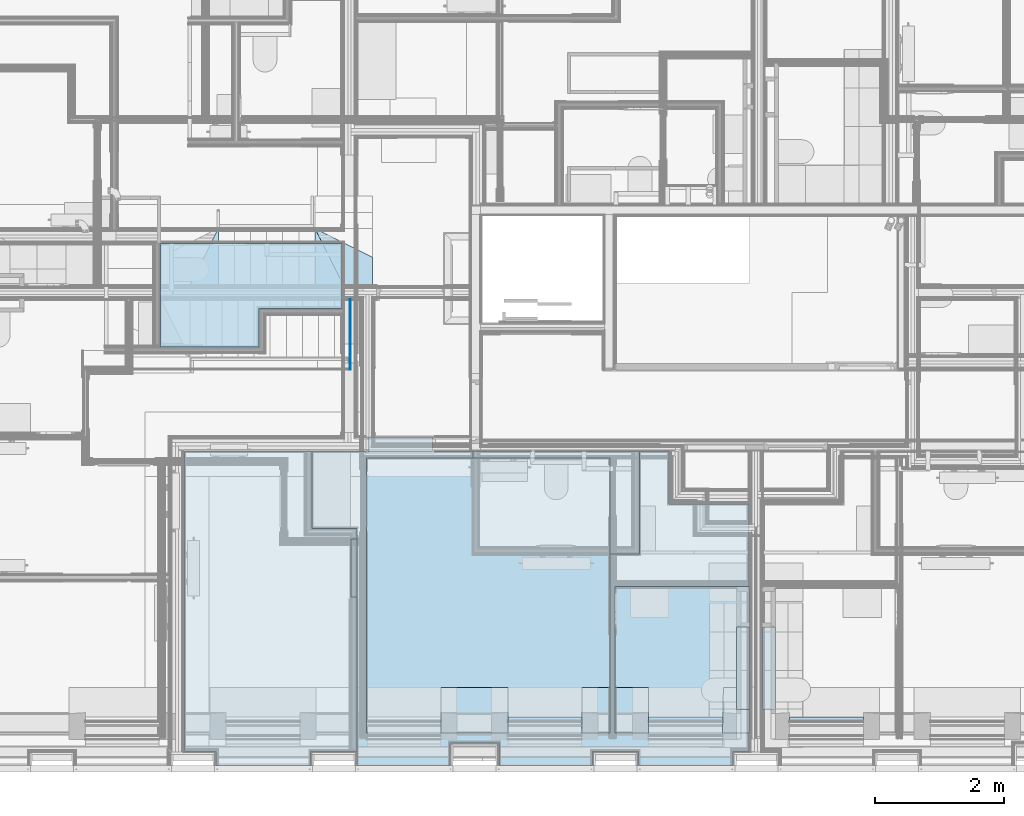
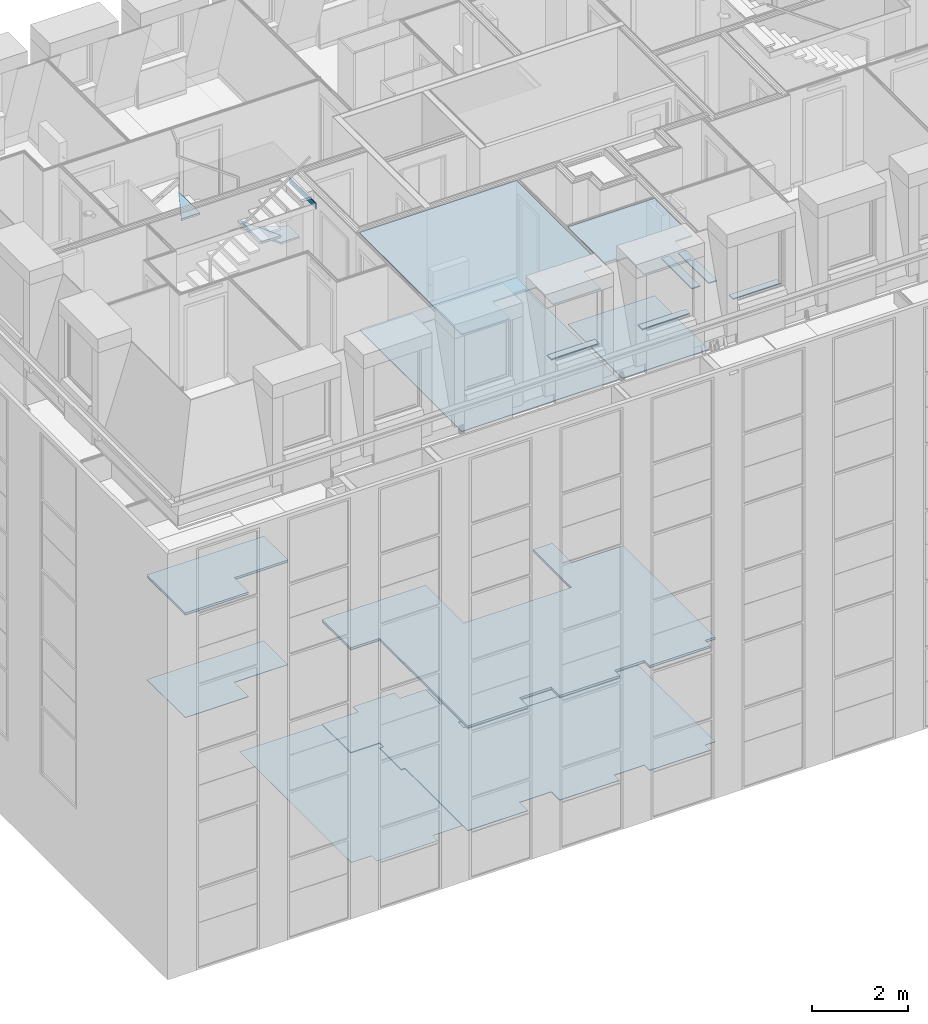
# One storey, part 70 of 169: 24 slabs.
"""IFC2X3 building model written with IfcOpenShell, lengths in metres."""

from ifc_helpers import new_model, entity, si_unit, converted_unit, derived_unit, money_unit, direction, frame, origin_with_axes, place, context, subcontext, project, spatial, faceted_brep, material, type_object, element, save


model = new_model("IFC2X3")

# Units and contexts
model_context = context("Model", 3, precision=1e-05, world=origin_with_axes(), true_north=direction((0.0, 1.0)))
body_context = subcontext(model_context, "Body", "Model", "MODEL_VIEW", scale=1.0)
ifc_project = project(units=[si_unit("LENGTHUNIT", "METRE"), si_unit("AREAUNIT", "SQUARE_METRE"), si_unit("VOLUMEUNIT", "CUBIC_METRE"), si_unit("ABSORBEDDOSEUNIT", "GRAY"), si_unit("AMOUNTOFSUBSTANCEUNIT", "MOLE"), si_unit("DOSEEQUIVALENTUNIT", "SIEVERT"), si_unit("ELECTRICCAPACITANCEUNIT", "FARAD"), si_unit("ELECTRICCHARGEUNIT", "COULOMB"), si_unit("ELECTRICCONDUCTANCEUNIT", "SIEMENS"), si_unit("ELECTRICCURRENTUNIT", "AMPERE"), si_unit("ELECTRICRESISTANCEUNIT", "OHM"), si_unit("ELECTRICVOLTAGEUNIT", "VOLT"), si_unit("ENERGYUNIT", "JOULE"), si_unit("FORCEUNIT", "NEWTON"), si_unit("FREQUENCYUNIT", "HERTZ"), si_unit("ILLUMINANCEUNIT", "LUX"), si_unit("INDUCTANCEUNIT", "HENRY"), si_unit("LUMINOUSFLUXUNIT", "LUMEN"), si_unit("LUMINOUSINTENSITYUNIT", "CANDELA"), si_unit("MAGNETICFLUXDENSITYUNIT", "TESLA"), si_unit("MAGNETICFLUXUNIT", "WEBER"), si_unit("MASSUNIT", "GRAM"), converted_unit("PLANEANGLEUNIT", "degree", entity("IfcReal", 0.0174532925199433), si_unit("PLANEANGLEUNIT", "RADIAN"), dimensions=[0, 0, 0, 0, 0, 0, 0]), si_unit("POWERUNIT", "WATT"), si_unit("PRESSUREUNIT", "PASCAL"), si_unit("RADIOACTIVITYUNIT", "BECQUEREL"), si_unit("SOLIDANGLEUNIT", "STERADIAN"), si_unit("THERMODYNAMICTEMPERATUREUNIT", "KELVIN"), si_unit("TIMEUNIT", "SECOND"), derived_unit("ACCELERATIONUNIT", [(si_unit("LENGTHUNIT", "METRE"), 1), (si_unit("TIMEUNIT", "SECOND"), -2)]), derived_unit("ANGULARVELOCITYUNIT", [(converted_unit("PLANEANGLEUNIT", "degree", entity("IfcReal", 0.0174532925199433), si_unit("PLANEANGLEUNIT", "RADIAN"), dimensions=[0, 0, 0, 0, 0, 0, 0]), 1), (si_unit("TIMEUNIT", "SECOND"), -1)]), derived_unit("CURVATUREUNIT", [(converted_unit("PLANEANGLEUNIT", "degree", entity("IfcReal", 0.0174532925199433), si_unit("PLANEANGLEUNIT", "RADIAN"), dimensions=[0, 0, 0, 0, 0, 0, 0]), 1), (si_unit("LENGTHUNIT", "METRE"), -1)]), derived_unit("DYNAMICVISCOSITYUNIT", [(si_unit("PRESSUREUNIT", "PASCAL"), 1), (si_unit("TIMEUNIT", "SECOND"), 1)]), derived_unit("HEATFLUXDENSITYUNIT", [(si_unit("POWERUNIT", "WATT"), 1), (si_unit("LENGTHUNIT", "METRE"), -2)]), derived_unit("HEATINGVALUEUNIT", [(si_unit("ENERGYUNIT", "JOULE"), 1), (si_unit("MASSUNIT", "GRAM"), -1)]), derived_unit("INTEGERCOUNTRATEUNIT", [(si_unit("TIMEUNIT", "SECOND"), -1)]), derived_unit("IONCONCENTRATIONUNIT", [(si_unit("MASSUNIT", "GRAM"), 1), (si_unit("VOLUMEUNIT", "CUBIC_METRE"), -1)]), derived_unit("ISOTHERMALMOISTURECAPACITYUNIT", [(si_unit("VOLUMEUNIT", "CUBIC_METRE"), 1), (si_unit("MASSUNIT", "GRAM"), -1)]), derived_unit("KINEMATICVISCOSITYUNIT", [(si_unit("AREAUNIT", "SQUARE_METRE"), 1), (si_unit("TIMEUNIT", "SECOND"), -1)]), derived_unit("LINEARFORCEUNIT", [(si_unit("FORCEUNIT", "NEWTON"), 1), (si_unit("LENGTHUNIT", "METRE"), -1)]), derived_unit("LINEARMOMENTUNIT", [(si_unit("FORCEUNIT", "NEWTON"), 1), (si_unit("LENGTHUNIT", "METRE"), -1)]), derived_unit("LINEARSTIFFNESSUNIT", [(si_unit("FORCEUNIT", "NEWTON"), 1), (si_unit("LENGTHUNIT", "METRE"), -1)]), derived_unit("LINEARVELOCITYUNIT", [(si_unit("LENGTHUNIT", "METRE"), 1), (si_unit("TIMEUNIT", "SECOND"), -1)]), derived_unit("LUMINOUSINTENSITYDISTRIBUTIONUNIT", [(si_unit("LUMINOUSINTENSITYUNIT", "CANDELA"), 1), (si_unit("LUMINOUSFLUXUNIT", "LUMEN"), -1)]), derived_unit("MASSDENSITYUNIT", [(si_unit("MASSUNIT", "GRAM"), 1), (si_unit("VOLUMEUNIT", "CUBIC_METRE"), -1)]), derived_unit("MASSFLOWRATEUNIT", [(si_unit("MASSUNIT", "GRAM"), 1), (si_unit("TIMEUNIT", "SECOND"), -1)]), derived_unit("MASSPERLENGTHUNIT", [(si_unit("MASSUNIT", "GRAM"), 1), (si_unit("LENGTHUNIT", "METRE"), -1)]), derived_unit("MODULUSOFELASTICITYUNIT", [(si_unit("FORCEUNIT", "NEWTON"), 1), (si_unit("AREAUNIT", "SQUARE_METRE"), -1)]), derived_unit("MODULUSOFLINEARSUBGRADEREACTIONUNIT", [(si_unit("FORCEUNIT", "NEWTON"), 1), (si_unit("LENGTHUNIT", "METRE"), -2)]), derived_unit("MODULUSOFROTATIONALSUBGRADEREACTIONUNIT", [(si_unit("FORCEUNIT", "NEWTON"), 1), (si_unit("LENGTHUNIT", "METRE"), 1)]), derived_unit("MODULUSOFSUBGRADEREACTIONUNIT", [(si_unit("FORCEUNIT", "NEWTON"), 1), (si_unit("VOLUMEUNIT", "CUBIC_METRE"), -1)]), derived_unit("MOISTUREDIFFUSIVITYUNIT", [(si_unit("VOLUMEUNIT", "CUBIC_METRE"), 1), (si_unit("TIMEUNIT", "SECOND"), -1)]), derived_unit("MOLECULARWEIGHTUNIT", [(si_unit("MASSUNIT", "GRAM"), 1), (si_unit("AMOUNTOFSUBSTANCEUNIT", "MOLE"), -1)]), derived_unit("PLANARFORCEUNIT", [(si_unit("FORCEUNIT", "NEWTON"), 1), (si_unit("LENGTHUNIT", "METRE"), -2)]), derived_unit("ROTATIONALFREQUENCYUNIT", [(si_unit("TIMEUNIT", "SECOND"), -1)]), derived_unit("ROTATIONALMASSUNIT", [(si_unit("MASSUNIT", "GRAM"), 1), (si_unit("LENGTHUNIT", "METRE"), 2)]), derived_unit("ROTATIONALSTIFFNESSUNIT", [(si_unit("FORCEUNIT", "NEWTON"), 1), (si_unit("LENGTHUNIT", "METRE"), 1), (converted_unit("PLANEANGLEUNIT", "degree", entity("IfcReal", 0.0174532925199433), si_unit("PLANEANGLEUNIT", "RADIAN"), dimensions=[0, 0, 0, 0, 0, 0, 0]), -1)]), derived_unit("SECTIONAREAINTEGRALUNIT", [(si_unit("LENGTHUNIT", "METRE"), 5)]), derived_unit("SECTIONMODULUSUNIT", [(si_unit("LENGTHUNIT", "METRE"), 3)]), derived_unit("SHEARMODULUSUNIT", [(si_unit("FORCEUNIT", "NEWTON"), 1), (si_unit("AREAUNIT", "SQUARE_METRE"), -1)]), derived_unit("SOUNDPOWERUNIT", [(si_unit("ENERGYUNIT", "JOULE"), 1), (si_unit("TIMEUNIT", "SECOND"), -1)]), derived_unit("SPECIFICHEATCAPACITYUNIT", [(si_unit("FORCEUNIT", "NEWTON"), 1), (si_unit("MASSUNIT", "GRAM"), -1), (si_unit("THERMODYNAMICTEMPERATUREUNIT", "KELVIN"), -1)]), derived_unit("TEMPERATUREGRADIENTUNIT", [(si_unit("THERMODYNAMICTEMPERATUREUNIT", "KELVIN"), 1), (si_unit("LENGTHUNIT", "METRE"), -1)]), derived_unit("THERMALADMITTANCEUNIT", [(si_unit("POWERUNIT", "WATT"), 1), (si_unit("AREAUNIT", "SQUARE_METRE"), -1), (si_unit("THERMODYNAMICTEMPERATUREUNIT", "KELVIN"), -1)]), derived_unit("THERMALCONDUCTANCEUNIT", [(si_unit("POWERUNIT", "WATT"), 1), (si_unit("LENGTHUNIT", "METRE"), -1), (si_unit("THERMODYNAMICTEMPERATUREUNIT", "KELVIN"), -1)]), derived_unit("THERMALEXPANSIONCOEFFICIENTUNIT", [(si_unit("THERMODYNAMICTEMPERATUREUNIT", "KELVIN"), -1)]), derived_unit("THERMALRESISTANCEUNIT", [(si_unit("AREAUNIT", "SQUARE_METRE"), 1), (si_unit("POWERUNIT", "WATT"), -1)]), derived_unit("THERMALTRANSMITTANCEUNIT", [(si_unit("POWERUNIT", "WATT"), 1), (si_unit("AREAUNIT", "SQUARE_METRE"), -1), (si_unit("THERMODYNAMICTEMPERATUREUNIT", "KELVIN"), -1)]), derived_unit("TORQUEUNIT", [(si_unit("FORCEUNIT", "NEWTON"), 1), (si_unit("LENGTHUNIT", "METRE"), 1)]), derived_unit("VAPORPERMEABILITYUNIT", [(si_unit("MASSUNIT", "GRAM"), 1), (si_unit("TIMEUNIT", "SECOND"), -1)]), derived_unit("VOLUMETRICFLOWRATEUNIT", [(si_unit("VOLUMEUNIT", "CUBIC_METRE"), 1), (si_unit("TIMEUNIT", "SECOND"), -1)]), derived_unit("WARPINGCONSTANTUNIT", [(si_unit("LENGTHUNIT", "METRE"), 6)]), derived_unit("WARPINGMOMENTUNIT", [(si_unit("FORCEUNIT", "NEWTON"), 1), (si_unit("LENGTHUNIT", "METRE"), 2)]), money_unit("GBP")], contexts=[model_context])

# Site, building, storey
site_placement = place(None, origin_with_axes())
site = spatial("IfcSite", under=ifc_project, at=site_placement, Name="Site", CompositionType="ELEMENT")
building_placement = place(site_placement, origin_with_axes())
building = spatial("IfcBuilding", under=site, at=building_placement, Name="Building01", CompositionType="ELEMENT")
storey_placement = place(building_placement, frame((0.0, 0.0, 5.15), z_axis=(0.0, 0.0, 1.0), x_axis=(1.0, 0.0, 0.0)))
storey = spatial("IfcBuildingStorey", under=building, at=storey_placement, Name="1F", CompositionType="ELEMENT", Elevation=5.15)

# Slabs
ifc_material_1 = material(Name="A_BSUK_ExpandedPolystyreneBoards")
slab_type_1 = type_object("IfcSlabType", Name="A-FloorsSlabs A_BSUK_Slabs", PredefinedType="FLOOR")
placement = place(storey_placement, frame((0.0, 0.0, -5.15), z_axis=(0.0, 0.0, 1.0), x_axis=(1.0, 0.0, 0.0)))
element("IfcSlab", 1, at=placement, inside=storey, type_object=slab_type_1, material=ifc_material_1, Name="A-FloorsSlabs A_BSUK_Slabs", ObjectType="CompoundSlabLeaf", context=body_context, shape_type="Brep", body=[
    faceted_brep([(12.15, 4.98, 5.15), (12.15, 4.98, 5.153), (12.15, 4.164428, 5.153), (12.15, 4.164428, 5.15), (9.0, 4.98, 5.15), (9.0, 4.98, 5.153), (8.4725, 4.98, 5.15), (8.4725, 4.98, 5.153), (8.4725, 5.205, 5.15), (8.4725, 5.205, 5.153), (7.4725, 5.205, 5.15), (7.4725, 5.205, 5.153), (7.4725, 4.98, 5.15), (7.4725, 4.98, 5.153), (4.61, 4.98, 5.15), (4.61, 4.98, 5.153), (4.61, 0.318, 5.15), (4.61, 0.318, 5.153), (5.105, 0.318, 5.15), (5.105, 0.318, 5.153), (5.105, 0.1, 5.15), (5.105, 0.1, 5.153), (6.575, 0.1, 5.15), (6.575, 0.1, 5.153), (6.575, 0.318, 5.15), (6.575, 0.318, 5.153), (7.295, 0.318, 5.15), (7.295, 0.318, 5.153), (7.295, 0.1, 5.15), (7.295, 0.1, 5.153), (8.742, 0.1, 5.15), (8.742, 0.1, 5.153), (8.742, 0.448, 5.15), (8.742, 0.448, 5.153), (9.508, 0.448, 5.15), (9.508, 0.448, 5.153), (9.508, 0.1, 5.15), (9.508, 0.1, 5.153), (10.955, 0.1, 5.15), (10.955, 0.1, 5.153), (10.955, 0.318, 5.15), (10.955, 0.318, 5.153), (11.675, 0.318, 5.15), (11.675, 0.318, 5.153), (11.675, 0.1, 5.15), (11.675, 0.1, 5.153), (13.145, 0.1, 5.15), (13.145, 0.1, 5.153), (13.145, 0.318, 5.15), (13.145, 0.318, 5.153), (13.3875, 0.318, 5.15), (13.3875, 0.318, 5.153), (13.3875, 4.164428, 5.15), (13.3875, 4.164428, 5.153)], [[[0, 1, 2, 3]], [[4, 5, 1, 0]], [[6, 7, 5, 4]], [[8, 9, 7, 6]], [[10, 11, 9, 8]], [[12, 13, 11, 10]], [[14, 15, 13, 12]], [[16, 17, 15, 14]], [[18, 19, 17, 16]], [[20, 21, 19, 18]], [[22, 23, 21, 20]], [[24, 25, 23, 22]], [[26, 27, 25, 24]], [[28, 29, 27, 26]], [[30, 31, 29, 28]], [[32, 33, 31, 30]], [[34, 35, 33, 32]], [[36, 37, 35, 34]], [[38, 39, 37, 36]], [[40, 41, 39, 38]], [[42, 43, 41, 40]], [[44, 45, 43, 42]], [[46, 47, 45, 44]], [[48, 49, 47, 46]], [[50, 51, 49, 48]], [[52, 53, 51, 50]], [[3, 2, 53, 52]], [[1, 5, 7, 9, 11, 13, 15, 17, 19, 21, 23, 25, 27, 29, 31, 33, 35, 37, 39, 41, 43, 45, 47, 49, 51, 53, 2]], [[3, 52, 50, 48, 46, 44, 42, 40, 38, 36, 34, 32, 30, 28, 26, 24, 22, 20, 18, 16, 14, 12, 10, 8, 6, 4, 0]]]),
])
ifc_material_2 = material(Name="A_BSUK_Parquet_Floor")
element("IfcSlab", 2, at=placement, inside=storey, type_object=slab_type_1, material=ifc_material_2, Name="A-FloorsSlabs A_BSUK_Slabs", ObjectType="CompoundSlabLeaf", context=body_context, shape_type="Brep", body=[
    faceted_brep([(8.4725, 5.205, 5.153), (8.4725, 5.205, 5.165), (8.4725, 4.98, 5.165), (8.4725, 4.98, 5.153), (7.4725, 5.205, 5.153), (7.4725, 5.205, 5.165), (7.4725, 4.98, 5.153), (7.4725, 4.98, 5.165), (6.595, 4.98, 5.153), (6.595, 4.98, 5.165), (6.595, 3.78, 5.153), (6.595, 3.78, 5.165), (7.295, 3.78, 5.153), (7.295, 3.78, 5.165), (7.295, 3.616, 5.153), (7.295, 3.616, 5.165), (7.2, 3.616, 5.153), (7.2, 3.616, 5.165), (7.2, 2.716, 5.153), (7.2, 2.716, 5.165), (7.295, 2.716, 5.153), (7.295, 2.716, 5.165), (7.295, 0.1, 5.153), (7.295, 0.1, 5.165), (8.742, 0.1, 5.153), (8.742, 0.1, 5.165), (8.742, 0.448, 5.153), (8.742, 0.448, 5.165), (9.508, 0.448, 5.153), (9.508, 0.448, 5.165), (9.508, 0.1, 5.153), (9.508, 0.1, 5.165), (10.955, 0.1, 5.153), (10.955, 0.1, 5.165), (10.955, 0.318, 5.153), (10.955, 0.318, 5.165), (11.675, 0.318, 5.153), (11.675, 0.318, 5.165), (11.675, 0.1, 5.153), (11.675, 0.1, 5.165), (13.145, 0.1, 5.153), (13.145, 0.1, 5.165), (13.145, 0.318, 5.153), (13.145, 0.318, 5.165), (13.3875, 0.318, 5.153), (13.3875, 0.318, 5.165), (13.3875, 4.164428, 5.153), (13.3875, 4.164428, 5.165), (12.15, 4.164428, 5.153), (12.15, 4.164428, 5.165), (12.15, 4.98, 5.153), (12.15, 4.98, 5.165), (11.687536, 4.98, 5.153), (11.687536, 4.98, 5.165), (11.687536, 3.385, 5.153), (11.687536, 3.385, 5.165), (9.097536, 3.385, 5.153), (9.097536, 3.385, 5.165), (9.097536, 3.613781, 5.153), (9.097536, 3.613781, 5.165), (9.192536, 3.613781, 5.153), (9.192536, 3.613781, 5.165), (9.192536, 4.363781, 5.153), (9.192536, 4.363781, 5.165), (9.097536, 4.363781, 5.153), (9.097536, 4.363781, 5.165), (9.097536, 4.98, 5.153), (9.097536, 4.98, 5.165)], [[[0, 1, 2, 3]], [[4, 5, 1, 0]], [[6, 7, 5, 4]], [[8, 9, 7, 6]], [[10, 11, 9, 8]], [[12, 13, 11, 10]], [[14, 15, 13, 12]], [[16, 17, 15, 14]], [[18, 19, 17, 16]], [[20, 21, 19, 18]], [[22, 23, 21, 20]], [[24, 25, 23, 22]], [[26, 27, 25, 24]], [[28, 29, 27, 26]], [[30, 31, 29, 28]], [[32, 33, 31, 30]], [[34, 35, 33, 32]], [[36, 37, 35, 34]], [[38, 39, 37, 36]], [[40, 41, 39, 38]], [[42, 43, 41, 40]], [[44, 45, 43, 42]], [[46, 47, 45, 44]], [[48, 49, 47, 46]], [[50, 51, 49, 48]], [[52, 53, 51, 50]], [[54, 55, 53, 52]], [[56, 57, 55, 54]], [[58, 59, 57, 56]], [[60, 61, 59, 58]], [[62, 63, 61, 60]], [[64, 65, 63, 62]], [[66, 67, 65, 64]], [[3, 2, 67, 66]], [[1, 5, 7, 9, 11, 13, 15, 17, 19, 21, 23, 25, 27, 29, 31, 33, 35, 37, 39, 41, 43, 45, 47, 49, 51, 53, 55, 57, 59, 61, 63, 65, 67, 2]], [[3, 66, 64, 62, 60, 58, 56, 54, 52, 50, 48, 46, 44, 42, 40, 38, 36, 34, 32, 30, 28, 26, 24, 22, 20, 18, 16, 14, 12, 10, 8, 6, 4, 0]]]),
])
ifc_material_3 = material(Name="A_BSUK_Ceramic_FloorTiles")
element("IfcSlab", 3, at=placement, inside=storey, type_object=slab_type_1, material=ifc_material_3, Name="A-FloorsSlabs A_BSUK_Slabs", ObjectType="CompoundSlabLeaf", context=body_context, shape_type="Brep", body=[
    faceted_brep([(4.24073, 8.21067, 5.153), (4.24073, 8.21067, 5.165), (7.064669, 8.21067, 5.165), (7.064669, 8.21067, 5.153), (4.24073, 6.606475, 5.153), (4.24073, 6.606475, 5.165), (5.769669, 6.606475, 5.153), (5.769669, 6.606475, 5.165), (5.769669, 7.206475, 5.153), (5.769669, 7.206475, 5.165), (7.064669, 7.206475, 5.153), (7.064669, 7.206475, 5.165)], [[[0, 1, 2, 3]], [[4, 5, 1, 0]], [[6, 7, 5, 4]], [[8, 9, 7, 6]], [[10, 11, 9, 8]], [[3, 2, 11, 10]], [[1, 5, 7, 9, 11, 2]], [[3, 10, 8, 6, 4, 0]]]),
])
ifc_material_4 = material(Name="A_BSUK_CeilingSoffitFinishes_Suspended")
element("IfcSlab", 4, at=placement, inside=storey, type_object=slab_type_1, material=ifc_material_4, Name="A-FloorsSlabs A_BSUK_Slabs", ObjectType="CompoundSlabLeaf", context=body_context, shape_type="Brep", body=[
    faceted_brep([(8.6725, 4.98, 7.765), (8.6725, 4.98, 7.78), (9.097536, 4.98, 7.78), (9.097536, 4.98, 7.765), (7.6725, 4.98, 7.765), (7.6725, 4.98, 7.78), (6.595, 4.98, 7.765), (6.595, 4.98, 7.78), (6.595, 3.78, 7.765), (6.595, 3.78, 7.78), (7.295, 3.78, 7.765), (7.295, 3.78, 7.78), (7.295, 3.151781, 7.765), (7.295, 3.151781, 7.78), (7.295, 0.1, 7.765), (7.295, 0.1, 7.78), (8.742, 0.1, 7.765), (8.742, 0.1, 7.78), (8.742, 0.448, 7.765), (8.742, 0.448, 7.78), (9.508, 0.448, 7.765), (9.508, 0.448, 7.78), (9.508, 0.1, 7.765), (9.508, 0.1, 7.78), (10.955, 0.1, 7.765), (10.955, 0.1, 7.78), (10.955, 0.318, 7.765), (10.955, 0.318, 7.78), (11.675, 0.318, 7.765), (11.675, 0.318, 7.78), (11.675, 0.1, 7.765), (11.675, 0.1, 7.78), (13.145, 0.1, 7.765), (13.145, 0.1, 7.78), (13.145, 0.318, 7.765), (13.145, 0.318, 7.78), (13.3875, 0.318, 7.765), (13.3875, 0.318, 7.78), (13.3875, 4.164428, 7.765), (13.3875, 4.164428, 7.78), (12.15, 4.164428, 7.765), (12.15, 4.164428, 7.78), (12.15, 4.98, 7.765), (12.15, 4.98, 7.78), (11.687536, 4.98, 7.765), (11.687536, 4.98, 7.78), (11.687536, 3.385, 7.765), (11.687536, 3.385, 7.78), (9.097536, 3.385, 7.765), (9.097536, 3.385, 7.78)], [[[0, 1, 2, 3]], [[4, 5, 1, 0]], [[6, 7, 5, 4]], [[8, 9, 7, 6]], [[10, 11, 9, 8]], [[12, 13, 11, 10]], [[14, 15, 13, 12]], [[16, 17, 15, 14]], [[18, 19, 17, 16]], [[20, 21, 19, 18]], [[22, 23, 21, 20]], [[24, 25, 23, 22]], [[26, 27, 25, 24]], [[28, 29, 27, 26]], [[30, 31, 29, 28]], [[32, 33, 31, 30]], [[34, 35, 33, 32]], [[36, 37, 35, 34]], [[38, 39, 37, 36]], [[40, 41, 39, 38]], [[42, 43, 41, 40]], [[44, 45, 43, 42]], [[46, 47, 45, 44]], [[48, 49, 47, 46]], [[3, 2, 49, 48]], [[1, 5, 7, 9, 11, 13, 15, 17, 19, 21, 23, 25, 27, 29, 31, 33, 35, 37, 39, 41, 43, 45, 47, 49, 2]], [[3, 48, 46, 44, 42, 40, 38, 36, 34, 32, 30, 28, 26, 24, 22, 20, 18, 16, 14, 12, 10, 8, 6, 4, 0]]]),
])
element("IfcSlab", 5, at=placement, inside=storey, type_object=slab_type_1, material=ifc_material_4, Name="A-FloorsSlabs A_BSUK_Slabs", ObjectType="CompoundSlabLeaf", context=body_context, shape_type="Brep", body=[
    faceted_brep([(4.24073, 8.21067, 7.765), (4.24073, 8.21067, 7.78), (7.064669, 8.21067, 7.78), (7.064669, 8.21067, 7.765), (4.24073, 6.606475, 7.765), (4.24073, 6.606475, 7.78), (5.769669, 6.606475, 7.765), (5.769669, 6.606475, 7.78), (5.769669, 7.206475, 7.765), (5.769669, 7.206475, 7.78), (7.064669, 7.206475, 7.765), (7.064669, 7.206475, 7.78)], [[[0, 1, 2, 3]], [[4, 5, 1, 0]], [[6, 7, 5, 4]], [[8, 9, 7, 6]], [[10, 11, 9, 8]], [[3, 2, 11, 10]], [[1, 5, 7, 9, 11, 2]], [[3, 10, 8, 6, 4, 0]]]),
])
ifc_material_5 = material(Name="A_BSUK_Ceramic_WallTiles")
slab_6_placement = place(storey_placement, frame((13.799998, 2.249668, 11.205), z_axis=(0.0, 0.0, 1.0), x_axis=(1.0, 0.0, 0.0)))
element("IfcSlab", 6, at=slab_6_placement, inside=storey, type_object=slab_type_1, material=ifc_material_5, Name="A-FloorsSlabs A_BSUK_Slabs", ObjectType="A-FloorsSlabs A_BSUK_Slabs", context=body_context, shape_type="Brep", body=[
    faceted_brep([(-0.199998, 0.0, 0.0), (-0.199998, 0.0, 0.025), (0.0, 0.0, 0.025), (0.0, 0.0, 0.0), (0.0, -1.279046, 0.025), (0.0, -1.279046, 0.0), (-0.199998, -1.279046, 0.025), (-0.199998, -1.279046, 0.0)], [[[0, 1, 2, 3]], [[3, 2, 4, 5]], [[5, 4, 6, 7]], [[7, 6, 1, 0]], [[1, 6, 4, 2]], [[3, 5, 7, 0]]]),
])
slab_7_placement = place(storey_placement, frame((13.200002, 2.249668, 11.205), z_axis=(0.0, 0.0, 1.0), x_axis=(1.0, 0.0, 0.0)))
element("IfcSlab", 7, at=slab_7_placement, inside=storey, type_object=slab_type_1, material=ifc_material_5, Name="A-FloorsSlabs A_BSUK_Slabs", ObjectType="A-FloorsSlabs A_BSUK_Slabs", context=body_context, shape_type="Brep", body=[
    faceted_brep([(0.0, 0.0, 0.0), (0.0, 0.0, 0.025), (0.199998, 0.0, 0.025), (0.199998, 0.0, 0.0), (0.0, -1.279046, 0.0), (0.0, -1.279046, 0.025), (0.199998, -1.279046, 0.0), (0.199998, -1.279046, 0.025)], [[[0, 1, 2, 3]], [[4, 5, 1, 0]], [[6, 7, 5, 4]], [[3, 2, 7, 6]], [[1, 5, 7, 2]], [[3, 6, 4, 0]]]),
])
element("IfcSlab", 8, at=placement, inside=storey, type_object=slab_type_1, material=ifc_material_4, Name="A-FloorsSlabs A_BSUK_Slabs", ObjectType="CompoundSlabLeaf", context=body_context, shape_type="Brep", body=[
    faceted_brep([(7.439998, 4.88, 17.423), (7.439998, 4.88, 17.438), (11.23, 4.88, 17.438), (11.23, 4.88, 17.423), (7.439911, 0.599916, 17.423), (7.439911, 0.599916, 17.438), (8.599976, 0.599939, 17.423), (8.599976, 0.599939, 17.438), (8.599976, 1.312402, 17.423), (8.599976, 1.312402, 17.438), (9.640024, 1.312402, 17.423), (9.640024, 1.312402, 17.438), (9.640024, 0.599939, 17.423), (9.640024, 0.599939, 17.438), (10.790024, 0.599939, 17.423), (10.790024, 0.599939, 17.438), (10.790024, 1.31, 17.423), (10.790024, 1.31, 17.438), (11.23, 1.31, 17.423), (11.23, 1.31, 17.438)], [[[0, 1, 2, 3]], [[4, 5, 1, 0]], [[6, 7, 5, 4]], [[8, 9, 7, 6]], [[10, 11, 9, 8]], [[12, 13, 11, 10]], [[14, 15, 13, 12]], [[16, 17, 15, 14]], [[18, 19, 17, 16]], [[3, 2, 19, 18]], [[1, 5, 7, 9, 11, 13, 15, 17, 19, 2]], [[3, 18, 16, 14, 12, 10, 8, 6, 4, 0]]]),
])
element("IfcSlab", 9, at=placement, inside=storey, type_object=slab_type_1, material=ifc_material_4, Name="A-FloorsSlabs A_BSUK_Slabs", ObjectType="CompoundSlabLeaf", context=body_context, shape_type="Brep", body=[
    faceted_brep([(11.31, 1.312402, 17.423), (11.31, 1.312402, 17.438), (11.31, 2.884761, 17.438), (11.31, 2.884761, 17.423), (11.830024, 1.312402, 17.423), (11.830024, 1.312402, 17.438), (11.830024, 0.599939, 17.423), (11.830024, 0.599939, 17.438), (12.979976, 0.599939, 17.423), (12.979976, 0.599939, 17.438), (12.992194, 1.312402, 17.423), (12.992194, 1.312402, 17.438), (13.4, 1.312402, 17.423), (13.4, 1.312402, 17.438), (13.4, 2.884761, 17.423), (13.4, 2.884761, 17.438)], [[[0, 1, 2, 3]], [[4, 5, 1, 0]], [[6, 7, 5, 4]], [[8, 9, 7, 6]], [[10, 11, 9, 8]], [[12, 13, 11, 10]], [[14, 15, 13, 12]], [[3, 2, 15, 14]], [[1, 5, 7, 9, 11, 13, 15, 2]], [[3, 14, 12, 10, 8, 6, 4, 0]]]),
])
element("IfcSlab", 10, at=placement, inside=storey, type_object=slab_type_1, material=ifc_material_1, Name="A-FloorsSlabs A_BSUK_Slabs", ObjectType="CompoundSlabLeaf", context=body_context, shape_type="Brep", body=[
    faceted_brep([(7.44, 4.88, 14.965), (7.44, 4.88, 14.968), (11.23, 4.88, 14.968), (11.23, 4.88, 14.965), (7.439911, 0.599916, 14.965), (7.439911, 0.599916, 14.968), (8.599976, 0.6038, 14.965), (8.599976, 0.6038, 14.968), (9.640024, 0.6038, 14.965), (9.640024, 0.6038, 14.968), (10.790024, 0.6038, 14.965), (10.790024, 0.6038, 14.968), (11.23, 0.6038, 14.965), (11.23, 0.6038, 14.968)], [[[0, 1, 2, 3]], [[4, 5, 1, 0]], [[6, 7, 5, 4]], [[8, 9, 7, 6]], [[10, 11, 9, 8]], [[12, 13, 11, 10]], [[3, 2, 13, 12]], [[1, 5, 7, 9, 11, 13, 2]], [[3, 12, 10, 8, 6, 4, 0]]]),
])
element("IfcSlab", 11, at=placement, inside=storey, type_object=slab_type_1, material=ifc_material_1, Name="A-FloorsSlabs A_BSUK_Slabs", ObjectType="CompoundSlabLeaf", context=body_context, shape_type="Brep", body=[
    faceted_brep([(11.31, 0.6038, 14.965), (11.31, 0.6038, 14.968), (11.31, 2.869761, 14.968), (11.31, 2.869761, 14.965), (11.830024, 0.6038, 14.965), (11.830024, 0.6038, 14.968), (13.4, 0.6038, 14.965), (13.4, 0.6038, 14.968), (13.4, 2.869761, 14.965), (13.4, 2.869761, 14.968)], [[[0, 1, 2, 3]], [[4, 5, 1, 0]], [[6, 7, 5, 4]], [[8, 9, 7, 6]], [[3, 2, 9, 8]], [[1, 5, 7, 9, 2]], [[3, 8, 6, 4, 0]]]),
])
ifc_material_6 = material(Name="A_BSUK_Timber_Miscellaneous")
element("IfcSlab", 12, at=placement, inside=storey, type_object=slab_type_1, material=ifc_material_6, Name="A-FloorsSlabs A_BSUK_Slabs", ObjectType="CompoundSlabLeaf", context=body_context, shape_type="Brep", body=[
    faceted_brep([(10.790024, 0.849939, 15.98), (10.790024, 0.849939, 16.005), (10.790024, 0.675339, 16.005), (10.790024, 0.675339, 15.98), (9.640024, 0.849939, 15.98), (9.640024, 0.849939, 16.005), (9.640025, 0.675339, 15.98), (9.640025, 0.675339, 16.005)], [[[0, 1, 2, 3]], [[4, 5, 1, 0]], [[6, 7, 5, 4]], [[3, 2, 7, 6]], [[1, 5, 7, 2]], [[3, 6, 4, 0]]]),
])
element("IfcSlab", 13, at=placement, inside=storey, type_object=slab_type_1, material=ifc_material_6, Name="A-FloorsSlabs A_BSUK_Slabs", ObjectType="CompoundSlabLeaf", context=body_context, shape_type="Brep", body=[
    faceted_brep([(12.980024, 0.849939, 15.98), (12.980024, 0.849939, 16.005), (12.980024, 0.675339, 16.005), (12.980024, 0.675339, 15.98), (11.830024, 0.849939, 15.98), (11.830024, 0.849939, 16.005), (11.830025, 0.675339, 15.98), (11.830025, 0.675339, 16.005)], [[[0, 1, 2, 3]], [[4, 5, 1, 0]], [[6, 7, 5, 4]], [[3, 2, 7, 6]], [[1, 5, 7, 2]], [[3, 6, 4, 0]]]),
])
element("IfcSlab", 14, at=placement, inside=storey, type_object=slab_type_1, material=ifc_material_6, Name="A-FloorsSlabs A_BSUK_Slabs", ObjectType="CompoundSlabLeaf", context=body_context, shape_type="Brep", body=[
    faceted_brep([(15.170024, 0.849939, 15.98), (15.170024, 0.849939, 16.005), (15.170024, 0.675339, 16.005), (15.170024, 0.675339, 15.98), (14.020024, 0.849939, 15.98), (14.020024, 0.849939, 16.005), (14.020025, 0.675339, 15.98), (14.020025, 0.675339, 16.005)], [[[0, 1, 2, 3]], [[4, 5, 1, 0]], [[6, 7, 5, 4]], [[3, 2, 7, 6]], [[1, 5, 7, 2]], [[3, 6, 4, 0]]]),
])
element("IfcSlab", 15, at=placement, inside=storey, type_object=slab_type_1, material=ifc_material_4, Name="A-FloorsSlabs A_BSUK_Slabs", ObjectType="CompoundSlabLeaf", context=body_context, shape_type="Brep", body=[
    faceted_brep([(7.439998, 4.88, 17.438), (7.439998, 4.88, 17.453), (11.23, 4.88, 17.453), (11.23, 4.88, 17.438), (7.439911, 0.599916, 17.438), (7.439911, 0.599916, 17.453), (8.599976, 0.599939, 17.438), (8.599976, 0.599939, 17.453), (8.599976, 1.312402, 17.438), (8.599976, 1.312402, 17.453), (9.640024, 1.312402, 17.438), (9.640024, 1.312402, 17.453), (9.640024, 0.599939, 17.438), (9.640024, 0.599939, 17.453), (10.790024, 0.599939, 17.438), (10.790024, 0.599939, 17.453), (10.790024, 1.31, 17.438), (10.790024, 1.31, 17.453), (11.23, 1.31, 17.438), (11.23, 1.31, 17.453)], [[[0, 1, 2, 3]], [[4, 5, 1, 0]], [[6, 7, 5, 4]], [[8, 9, 7, 6]], [[10, 11, 9, 8]], [[12, 13, 11, 10]], [[14, 15, 13, 12]], [[16, 17, 15, 14]], [[18, 19, 17, 16]], [[3, 2, 19, 18]], [[1, 5, 7, 9, 11, 13, 15, 17, 19, 2]], [[3, 18, 16, 14, 12, 10, 8, 6, 4, 0]]]),
])
element("IfcSlab", 16, at=placement, inside=storey, type_object=slab_type_1, material=ifc_material_4, Name="A-FloorsSlabs A_BSUK_Slabs", ObjectType="CompoundSlabLeaf", context=body_context, shape_type="Brep", body=[
    faceted_brep([(11.31, 1.312402, 17.438), (11.31, 1.312402, 17.453), (11.31, 2.884761, 17.453), (11.31, 2.884761, 17.438), (11.830024, 1.312402, 17.438), (11.830024, 1.312402, 17.453), (11.830024, 0.599939, 17.438), (11.830024, 0.599939, 17.453), (12.979976, 0.599939, 17.438), (12.979976, 0.599939, 17.453), (12.992194, 1.312402, 17.438), (12.992194, 1.312402, 17.453), (13.4, 1.312402, 17.438), (13.4, 1.312402, 17.453), (13.4, 2.884761, 17.438), (13.4, 2.884761, 17.453)], [[[0, 1, 2, 3]], [[4, 5, 1, 0]], [[6, 7, 5, 4]], [[8, 9, 7, 6]], [[10, 11, 9, 8]], [[12, 13, 11, 10]], [[14, 15, 13, 12]], [[3, 2, 15, 14]], [[1, 5, 7, 9, 11, 13, 15, 2]], [[3, 14, 12, 10, 8, 6, 4, 0]]]),
])
ifc_material_7 = material(Name="A_BSUK_Slabs")
element("IfcSlab", 17, at=placement, inside=storey, type_object=slab_type_1, material=ifc_material_7, Name="A-FloorsSlabs A_BSUK_Slabs", ObjectType="CompoundSlabLeaf", context=body_context, shape_type="Brep", body=[
    faceted_brep([(6.64, 7.549939, 15.83), (6.64, 7.549939, 15.88), (6.64, 8.449939, 15.88), (6.64, 8.449939, 15.83), (7.09, 7.549939, 15.83), (7.09, 7.549939, 15.88)], [[[0, 1, 2, 3]], [[4, 5, 1, 0]], [[3, 2, 5, 4]], [[1, 5, 2]], [[3, 4, 0]]]),
])
element("IfcSlab", 18, at=placement, inside=storey, type_object=slab_type_1, material=ifc_material_7, Name="A-FloorsSlabs A_BSUK_Slabs", ObjectType="CompoundSlabLeaf", context=body_context, shape_type="Brep", body=[
    faceted_brep([(7.09, 7.549939, 15.65), (7.09, 7.549939, 15.7), (6.64, 8.449939, 15.7), (6.64, 8.449939, 15.65), (7.54, 7.549939, 15.65), (7.54, 7.549939, 15.7), (7.54, 7.999939, 15.65), (7.54, 7.999939, 15.7)], [[[0, 1, 2, 3]], [[4, 5, 1, 0]], [[6, 7, 5, 4]], [[3, 2, 7, 6]], [[1, 5, 7, 2]], [[3, 6, 4, 0]]]),
])
element("IfcSlab", 19, at=placement, inside=storey, type_object=slab_type_1, material=ifc_material_7, Name="A-FloorsSlabs A_BSUK_Slabs", ObjectType="CompoundSlabLeaf", context=body_context, shape_type="Brep", body=[
    faceted_brep([(4.69, 7.549939, 17.09), (4.69, 7.549939, 17.14), (5.14, 8.449939, 17.14), (5.14, 8.449939, 17.09), (5.14, 7.549939, 17.09), (5.14, 7.549939, 17.14)], [[[0, 1, 2, 3]], [[4, 5, 1, 0]], [[3, 2, 5, 4]], [[1, 5, 2]], [[3, 4, 0]]]),
])
element("IfcSlab", 20, at=placement, inside=storey, type_object=slab_type_1, material=ifc_material_4, Name="A-FloorsSlabs A_BSUK_Slabs", ObjectType="CompoundSlabLeaf", context=body_context, shape_type="Brep", body=[
    faceted_brep([(7.195111, 7.349939, 17.308), (7.180111, 7.349939, 17.308), (7.180111, 7.349939, 17.453), (7.195111, 7.349939, 17.453), (7.195111, 6.252627, 17.308), (7.180111, 6.252627, 17.308), (7.195111, 6.252627, 17.453), (7.180111, 6.252627, 17.453)], [[[0, 1, 2, 3]], [[4, 5, 1, 0]], [[6, 7, 5, 4]], [[3, 2, 7, 6]], [[1, 5, 7, 2]], [[3, 6, 4, 0]]]),
])
slab_type_2 = type_object("IfcSlabType", Name="A-Finishes A_BSUK_Ceramic_FloorTiles", PredefinedType="FLOOR")
element("IfcSlab", 21, at=placement, inside=storey, type_object=slab_type_2, material=ifc_material_3, Name="A-Finishes A_BSUK_Ceramic_FloorTiles", ObjectType="CompoundSlabLeaf", context=body_context, shape_type="Brep", body=[
    faceted_brep([(11.31, 0.6038, 14.968), (11.31, 0.6038, 14.98), (11.31, 2.869761, 14.98), (11.31, 2.869761, 14.968), (11.830024, 0.6038, 14.968), (11.830024, 0.6038, 14.98), (13.4, 0.6038, 14.968), (13.4, 0.6038, 14.98), (13.4, 2.869761, 14.968), (13.4, 2.869761, 14.98)], [[[0, 1, 2, 3]], [[4, 5, 1, 0]], [[6, 7, 5, 4]], [[8, 9, 7, 6]], [[3, 2, 9, 8]], [[1, 5, 7, 9, 2]], [[3, 8, 6, 4, 0]]]),
])
slab_type_3 = type_object("IfcSlabType", Name="A-FloorsSlabs A_BSUK_ExpandedPolystyreneBoards", PredefinedType="FLOOR")
element("IfcSlab", 22, at=placement, inside=storey, type_object=slab_type_3, material=ifc_material_1, Name="A-FloorsSlabs A_BSUK_ExpandedPolystyreneBoards", ObjectType="CompoundSlabLeaf", context=body_context, shape_type="Brep", body=[
    faceted_brep([(8.6725, 4.98, 7.78), (8.6725, 4.98, 7.83), (9.097536, 4.98, 7.83), (9.097536, 4.98, 7.78), (7.6725, 4.98, 7.78), (7.6725, 4.98, 7.83), (6.595, 4.98, 7.78), (6.595, 4.98, 7.83), (6.595, 3.78, 7.78), (6.595, 3.78, 7.83), (7.295, 3.78, 7.78), (7.295, 3.78, 7.83), (7.295, 3.151781, 7.78), (7.295, 3.151781, 7.83), (7.295, 0.1, 7.78), (7.295, 0.1, 7.83), (8.742, 0.1, 7.78), (8.742, 0.1, 7.83), (8.742, 0.448, 7.78), (8.742, 0.448, 7.83), (9.508, 0.448, 7.78), (9.508, 0.448, 7.83), (9.508, 0.1, 7.78), (9.508, 0.1, 7.83), (10.955, 0.1, 7.78), (10.955, 0.1, 7.83), (10.955, 0.318, 7.78), (10.955, 0.318, 7.83), (11.675, 0.318, 7.78), (11.675, 0.318, 7.83), (11.675, 0.1, 7.78), (11.675, 0.1, 7.83), (13.145, 0.1, 7.78), (13.145, 0.1, 7.83), (13.145, 0.318, 7.78), (13.145, 0.318, 7.83), (13.3875, 0.318, 7.78), (13.3875, 0.318, 7.83), (13.3875, 4.164428, 7.78), (13.3875, 4.164428, 7.83), (12.15, 4.164428, 7.78), (12.15, 4.164428, 7.83), (12.15, 4.98, 7.78), (12.15, 4.98, 7.83), (11.687536, 4.98, 7.78), (11.687536, 4.98, 7.83), (11.687536, 3.385, 7.78), (11.687536, 3.385, 7.83), (9.097536, 3.385, 7.78), (9.097536, 3.385, 7.83)], [[[0, 1, 2, 3]], [[4, 5, 1, 0]], [[6, 7, 5, 4]], [[8, 9, 7, 6]], [[10, 11, 9, 8]], [[12, 13, 11, 10]], [[14, 15, 13, 12]], [[16, 17, 15, 14]], [[18, 19, 17, 16]], [[20, 21, 19, 18]], [[22, 23, 21, 20]], [[24, 25, 23, 22]], [[26, 27, 25, 24]], [[28, 29, 27, 26]], [[30, 31, 29, 28]], [[32, 33, 31, 30]], [[34, 35, 33, 32]], [[36, 37, 35, 34]], [[38, 39, 37, 36]], [[40, 41, 39, 38]], [[42, 43, 41, 40]], [[44, 45, 43, 42]], [[46, 47, 45, 44]], [[48, 49, 47, 46]], [[3, 2, 49, 48]], [[1, 5, 7, 9, 11, 13, 15, 17, 19, 21, 23, 25, 27, 29, 31, 33, 35, 37, 39, 41, 43, 45, 47, 49, 2]], [[3, 48, 46, 44, 42, 40, 38, 36, 34, 32, 30, 28, 26, 24, 22, 20, 18, 16, 14, 12, 10, 8, 6, 4, 0]]]),
])
element("IfcSlab", 23, at=placement, inside=storey, type_object=slab_type_3, material=ifc_material_1, Name="A-FloorsSlabs A_BSUK_ExpandedPolystyreneBoards", ObjectType="CompoundSlabLeaf", context=body_context, shape_type="Brep", body=[
    faceted_brep([(4.24073, 8.21067, 7.78), (4.24073, 8.21067, 7.83), (7.064669, 8.21067, 7.83), (7.064669, 8.21067, 7.78), (4.24073, 6.606475, 7.78), (4.24073, 6.606475, 7.83), (5.769669, 6.606475, 7.78), (5.769669, 6.606475, 7.83), (5.769669, 7.206475, 7.78), (5.769669, 7.206475, 7.83), (7.064669, 7.206475, 7.78), (7.064669, 7.206475, 7.83)], [[[0, 1, 2, 3]], [[4, 5, 1, 0]], [[6, 7, 5, 4]], [[8, 9, 7, 6]], [[10, 11, 9, 8]], [[3, 2, 11, 10]], [[1, 5, 7, 9, 11, 2]], [[3, 10, 8, 6, 4, 0]]]),
])
ifc_material_8 = material(Name="A_BSUK_Carpet-Pile")
slab_type_4 = type_object("IfcSlabType", Name="A-Finishes A_BSUK_Carpet-Pile", PredefinedType="FLOOR")
element("IfcSlab", 24, at=placement, inside=storey, type_object=slab_type_4, material=ifc_material_8, Name="A-Finishes A_BSUK_Carpet-Pile", ObjectType="CompoundSlabLeaf", context=body_context, shape_type="Brep", body=[
    faceted_brep([(7.44, 4.88, 14.968), (7.44, 4.88, 14.98), (11.23, 4.88, 14.98), (11.23, 4.88, 14.968), (7.439911, 0.599916, 14.968), (7.439911, 0.599916, 14.98), (8.599976, 0.6038, 14.968), (8.599976, 0.6038, 14.98), (9.640024, 0.6038, 14.968), (9.640024, 0.6038, 14.98), (10.790024, 0.6038, 14.968), (10.790024, 0.6038, 14.98), (11.23, 0.6038, 14.968), (11.23, 0.6038, 14.98)], [[[0, 1, 2, 3]], [[4, 5, 1, 0]], [[6, 7, 5, 4]], [[8, 9, 7, 6]], [[10, 11, 9, 8]], [[12, 13, 11, 10]], [[3, 2, 13, 12]], [[1, 5, 7, 9, 11, 13, 2]], [[3, 12, 10, 8, 6, 4, 0]]]),
])

save(model, "model.ifc")
